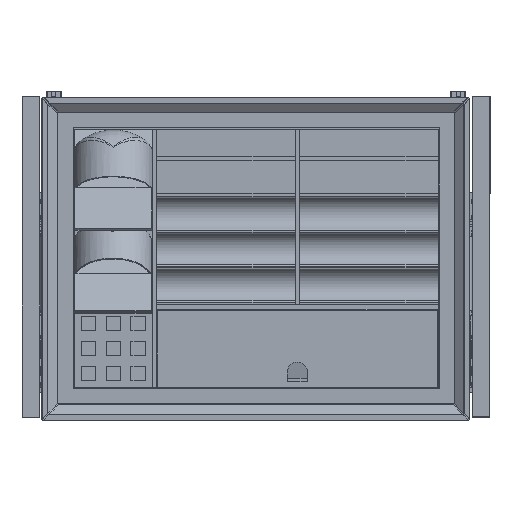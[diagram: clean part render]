
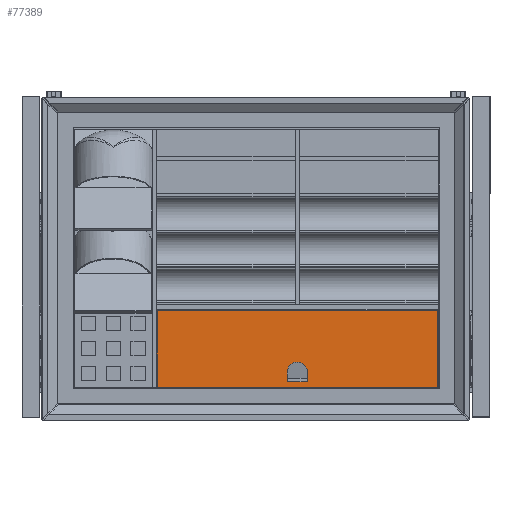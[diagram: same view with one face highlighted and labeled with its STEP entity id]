
A CAD part, top view. The second image highlights one B-rep face of the part: STEP entity #77389.
In plain terms, the highlighted planar face has unit normal (0, 0, 1).
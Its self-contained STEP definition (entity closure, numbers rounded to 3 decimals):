
#3093=LINE('',#116203,#11180);
#3094=LINE('',#116206,#11181);
#3095=LINE('',#116208,#11182);
#3096=LINE('',#116210,#11183);
#3097=LINE('',#116211,#11184);
#3098=LINE('',#116214,#11185);
#3099=LINE('',#116216,#11186);
#3100=LINE('',#116218,#11187);
#11180=VECTOR('',#91341,1000.);
#11181=VECTOR('',#91342,1000.);
#11182=VECTOR('',#91343,1000.);
#11183=VECTOR('',#91344,1000.);
#11184=VECTOR('',#91345,1000.);
#11185=VECTOR('',#91346,1000.);
#11186=VECTOR('',#91347,1000.);
#11187=VECTOR('',#91348,1000.);
#19061=PLANE('',#82681);
#25409=ORIENTED_EDGE('',*,*,#48425,.F.);
#25410=ORIENTED_EDGE('',*,*,#48426,.T.);
#25411=ORIENTED_EDGE('',*,*,#48427,.T.);
#25412=ORIENTED_EDGE('',*,*,#48428,.T.);
#25413=ORIENTED_EDGE('',*,*,#48429,.T.);
#25414=ORIENTED_EDGE('',*,*,#48430,.T.);
#25415=ORIENTED_EDGE('',*,*,#48431,.F.);
#25416=ORIENTED_EDGE('',*,*,#48432,.F.);
#48425=EDGE_CURVE('',#59996,#59997,#3093,.T.);
#48426=EDGE_CURVE('',#59996,#59998,#3094,.F.);
#48427=EDGE_CURVE('',#59998,#59999,#3095,.T.);
#48428=EDGE_CURVE('',#59999,#59997,#3096,.T.);
#48429=EDGE_CURVE('',#60000,#60001,#3097,.T.);
#48430=EDGE_CURVE('',#60001,#60002,#3098,.T.);
#48431=EDGE_CURVE('',#60003,#60002,#3099,.T.);
#48432=EDGE_CURVE('',#60000,#60003,#3100,.T.);
#59996=VERTEX_POINT('',#116204);
#59997=VERTEX_POINT('',#116205);
#59998=VERTEX_POINT('',#116207);
#59999=VERTEX_POINT('',#116209);
#60000=VERTEX_POINT('',#116212);
#60001=VERTEX_POINT('',#116213);
#60002=VERTEX_POINT('',#116215);
#60003=VERTEX_POINT('',#116217);
#67328=EDGE_LOOP('',(#25409,#25410,#25411,#25412));
#67329=EDGE_LOOP('',(#25413,#25414,#25415,#25416));
#72367=FACE_BOUND('',#67328,.T.);
#72368=FACE_BOUND('',#67329,.T.);
#77389=ADVANCED_FACE('',(#72367,#72368),#19061,.T.);
#82681=AXIS2_PLACEMENT_3D('',#116202,#91339,#91340);
#91339=DIRECTION('',(0.,0.,1.));
#91340=DIRECTION('',(1.,0.,0.));
#91341=DIRECTION('',(0.,-1.,0.));
#91342=DIRECTION('',(1.,0.,0.));
#91343=DIRECTION('',(0.,-1.,0.));
#91344=DIRECTION('',(1.,0.,0.));
#91345=DIRECTION('',(-1.,0.,0.));
#91346=DIRECTION('',(0.,1.,0.));
#91347=DIRECTION('',(-1.,0.,0.));
#91348=DIRECTION('',(0.,1.,0.));
#116202=CARTESIAN_POINT('',(58.,-126.9,83.4));
#116203=CARTESIAN_POINT('',(255.4,-72.4,83.4));
#116204=CARTESIAN_POINT('',(255.4,-74.4,83.4));
#116205=CARTESIAN_POINT('',(255.4,-181.6,83.4));
#116206=CARTESIAN_POINT('',(58.,-74.4,83.4));
#116207=CARTESIAN_POINT('',(-139.4,-74.4,83.4));
#116208=CARTESIAN_POINT('',(-139.4,-72.4,83.4));
#116209=CARTESIAN_POINT('',(-139.4,-181.6,83.4));
#116210=CARTESIAN_POINT('',(58.,-181.6,83.4));
#116211=CARTESIAN_POINT('',(72.,-174.483,83.4));
#116212=CARTESIAN_POINT('',(72.,-174.483,83.4));
#116213=CARTESIAN_POINT('',(44.,-174.483,83.4));
#116214=CARTESIAN_POINT('',(44.,-171.957,83.4));
#116215=CARTESIAN_POINT('',(44.,-169.431,83.4));
#116216=CARTESIAN_POINT('',(72.,-169.431,83.4));
#116217=CARTESIAN_POINT('',(72.,-169.431,83.4));
#116218=CARTESIAN_POINT('',(72.,-171.957,83.4));
